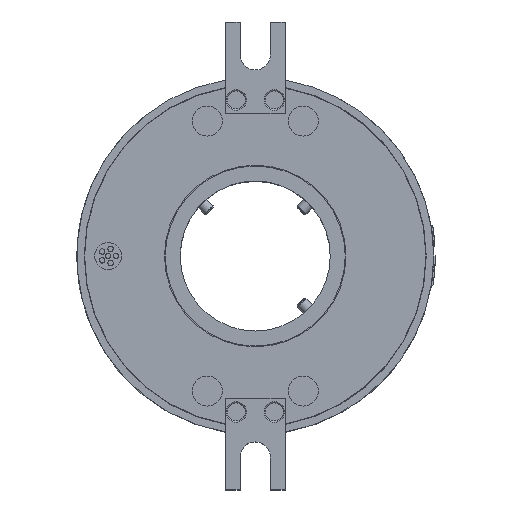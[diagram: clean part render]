
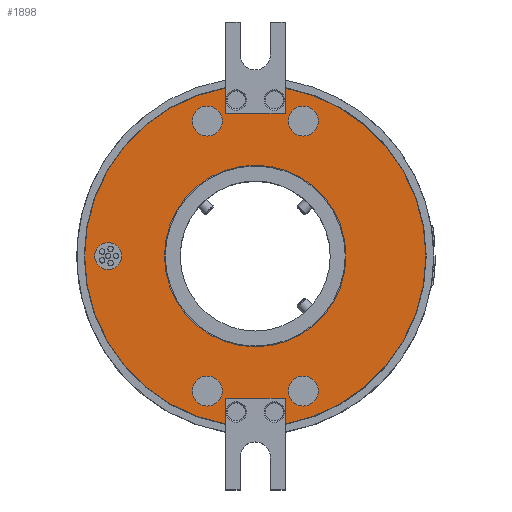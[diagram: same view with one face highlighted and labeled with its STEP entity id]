
A CAD part, top view. The second image highlights one B-rep face of the part: STEP entity #1898.
In plain terms, the highlighted planar face has unit normal (0, 0, 1).
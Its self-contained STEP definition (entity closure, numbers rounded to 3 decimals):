
#218=FACE_BOUND('',#4822,.T.);
#219=FACE_BOUND('',#4823,.T.);
#220=FACE_BOUND('',#4824,.T.);
#221=FACE_BOUND('',#4825,.T.);
#222=FACE_BOUND('',#4826,.T.);
#223=FACE_BOUND('',#4827,.T.);
#224=FACE_BOUND('',#4828,.T.);
#516=CIRCLE('',#16395,56.9);
#517=CIRCLE('',#16396,56.9);
#518=CIRCLE('',#16397,30.25);
#519=CIRCLE('',#16398,5.);
#520=CIRCLE('',#16399,5.);
#521=CIRCLE('',#16400,4.5);
#522=CIRCLE('',#16401,5.);
#523=CIRCLE('',#16402,5.);
#943=PLANE('',#16403);
#1191=LINE('',#30988,#3169);
#1192=LINE('',#30991,#3170);
#1193=LINE('',#30993,#3171);
#1194=LINE('',#30997,#3172);
#1195=LINE('',#30999,#3173);
#1196=LINE('',#31001,#3174);
#1898=ADVANCED_FACE('',(#218,#219,#220,#221,#222,#223,#224),#943,.T.);
#3169=VECTOR('',#17962,1.);
#3170=VECTOR('',#17963,1.);
#3171=VECTOR('',#17964,1.);
#3172=VECTOR('',#17967,1.);
#3173=VECTOR('',#17968,1.);
#3174=VECTOR('',#17969,1.);
#4822=EDGE_LOOP('',(#8053,#8054,#8055,#8056,#8057,#8058,#8059,#8060));
#4823=EDGE_LOOP('',(#8061));
#4824=EDGE_LOOP('',(#8062));
#4825=EDGE_LOOP('',(#8063));
#4826=EDGE_LOOP('',(#8064));
#4827=EDGE_LOOP('',(#8065));
#4828=EDGE_LOOP('',(#8066));
#8053=ORIENTED_EDGE('',*,*,#13178,.F.);
#8054=ORIENTED_EDGE('',*,*,#13179,.F.);
#8055=ORIENTED_EDGE('',*,*,#13180,.F.);
#8056=ORIENTED_EDGE('',*,*,#13181,.F.);
#8057=ORIENTED_EDGE('',*,*,#13182,.F.);
#8058=ORIENTED_EDGE('',*,*,#13183,.F.);
#8059=ORIENTED_EDGE('',*,*,#13184,.F.);
#8060=ORIENTED_EDGE('',*,*,#13185,.F.);
#8061=ORIENTED_EDGE('',*,*,#13186,.F.);
#8062=ORIENTED_EDGE('',*,*,#13187,.T.);
#8063=ORIENTED_EDGE('',*,*,#13188,.T.);
#8064=ORIENTED_EDGE('',*,*,#13189,.T.);
#8065=ORIENTED_EDGE('',*,*,#13190,.T.);
#8066=ORIENTED_EDGE('',*,*,#13191,.T.);
#11044=VERTEX_POINT('',#30989);
#11045=VERTEX_POINT('',#30990);
#11046=VERTEX_POINT('',#30992);
#11047=VERTEX_POINT('',#30994);
#11048=VERTEX_POINT('',#30996);
#11049=VERTEX_POINT('',#30998);
#11050=VERTEX_POINT('',#31000);
#11051=VERTEX_POINT('',#31002);
#11052=VERTEX_POINT('',#31005);
#11053=VERTEX_POINT('',#31007);
#11054=VERTEX_POINT('',#31009);
#11055=VERTEX_POINT('',#31011);
#11056=VERTEX_POINT('',#31013);
#11057=VERTEX_POINT('',#31015);
#13178=EDGE_CURVE('',#11044,#11045,#1191,.T.);
#13179=EDGE_CURVE('',#11046,#11044,#1192,.T.);
#13180=EDGE_CURVE('',#11047,#11046,#1193,.T.);
#13181=EDGE_CURVE('',#11048,#11047,#516,.T.);
#13182=EDGE_CURVE('',#11049,#11048,#1194,.T.);
#13183=EDGE_CURVE('',#11050,#11049,#1195,.T.);
#13184=EDGE_CURVE('',#11051,#11050,#1196,.T.);
#13185=EDGE_CURVE('',#11045,#11051,#517,.T.);
#13186=EDGE_CURVE('',#11052,#11052,#518,.T.);
#13187=EDGE_CURVE('',#11053,#11053,#519,.T.);
#13188=EDGE_CURVE('',#11054,#11054,#520,.T.);
#13189=EDGE_CURVE('',#11055,#11055,#521,.T.);
#13190=EDGE_CURVE('',#11056,#11056,#522,.T.);
#13191=EDGE_CURVE('',#11057,#11057,#523,.T.);
#16395=AXIS2_PLACEMENT_3D('',#30995,#17965,#17966);
#16396=AXIS2_PLACEMENT_3D('',#31003,#17970,#17971);
#16397=AXIS2_PLACEMENT_3D('',#31004,#17972,#17973);
#16398=AXIS2_PLACEMENT_3D('',#31006,#17974,#17975);
#16399=AXIS2_PLACEMENT_3D('',#31008,#17976,#17977);
#16400=AXIS2_PLACEMENT_3D('',#31010,#17978,#17979);
#16401=AXIS2_PLACEMENT_3D('',#31012,#17980,#17981);
#16402=AXIS2_PLACEMENT_3D('',#31014,#17982,#17983);
#16403=AXIS2_PLACEMENT_3D('',#31016,#17984,#17985);
#17962=DIRECTION('',(0.,-1.,0.));
#17963=DIRECTION('',(-1.,0.,0.));
#17964=DIRECTION('',(0.,1.,0.));
#17965=DIRECTION('',(0.,0.,-1.));
#17966=DIRECTION('',(1.,0.,0.));
#17967=DIRECTION('',(0.,1.,0.));
#17968=DIRECTION('',(1.,0.,0.));
#17969=DIRECTION('',(0.,-1.,0.));
#17970=DIRECTION('',(0.,0.,-1.));
#17971=DIRECTION('',(1.,0.,0.));
#17972=DIRECTION('',(0.,0.,1.));
#17973=DIRECTION('',(1.,0.,0.));
#17974=DIRECTION('',(0.,0.,-1.));
#17975=DIRECTION('',(1.,0.,0.));
#17976=DIRECTION('',(0.,0.,-1.));
#17977=DIRECTION('',(1.,0.,0.));
#17978=DIRECTION('',(0.,0.,-1.));
#17979=DIRECTION('',(1.,0.,0.));
#17980=DIRECTION('',(0.,0.,-1.));
#17981=DIRECTION('',(-1.,0.,0.));
#17982=DIRECTION('',(0.,0.,-1.));
#17983=DIRECTION('',(-1.,0.,0.));
#17984=DIRECTION('',(0.,0.,1.));
#17985=DIRECTION('',(1.,0.,0.));
#30988=CARTESIAN_POINT('',(-10.,-62.75,82.5));
#30989=CARTESIAN_POINT('',(-10.,-47.5,82.5));
#30990=CARTESIAN_POINT('',(-10.,-56.014,82.5));
#30991=CARTESIAN_POINT('',(0.,-47.5,82.5));
#30992=CARTESIAN_POINT('',(10.,-47.5,82.5));
#30993=CARTESIAN_POINT('',(10.,-62.75,82.5));
#30994=CARTESIAN_POINT('',(10.,-56.014,82.5));
#30995=CARTESIAN_POINT('',(0.,0.,82.5));
#30996=CARTESIAN_POINT('',(10.,56.014,82.5));
#30997=CARTESIAN_POINT('',(10.,62.75,82.5));
#30998=CARTESIAN_POINT('',(10.,47.5,82.5));
#30999=CARTESIAN_POINT('',(0.,47.5,82.5));
#31000=CARTESIAN_POINT('',(-10.,47.5,82.5));
#31001=CARTESIAN_POINT('',(-10.,62.75,82.5));
#31002=CARTESIAN_POINT('',(-10.,56.014,82.5));
#31003=CARTESIAN_POINT('',(0.,0.,82.5));
#31004=CARTESIAN_POINT('',(0.,0.,82.5));
#31005=CARTESIAN_POINT('',(30.25,0.,82.5));
#31006=CARTESIAN_POINT('',(16.,-45.,82.5));
#31007=CARTESIAN_POINT('',(21.,-45.,82.5));
#31008=CARTESIAN_POINT('',(-16.,-45.,82.5));
#31009=CARTESIAN_POINT('',(-11.,-45.,82.5));
#31010=CARTESIAN_POINT('',(-49.,0.,82.5));
#31011=CARTESIAN_POINT('',(-44.5,0.,82.5));
#31012=CARTESIAN_POINT('',(16.,45.,82.5));
#31013=CARTESIAN_POINT('',(11.,45.,82.5));
#31014=CARTESIAN_POINT('',(-16.,45.,82.5));
#31015=CARTESIAN_POINT('',(-21.,45.,82.5));
#31016=CARTESIAN_POINT('',(0.,0.,82.5));
